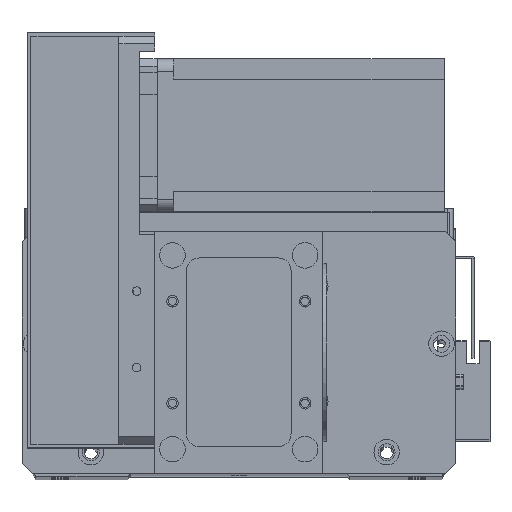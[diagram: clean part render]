
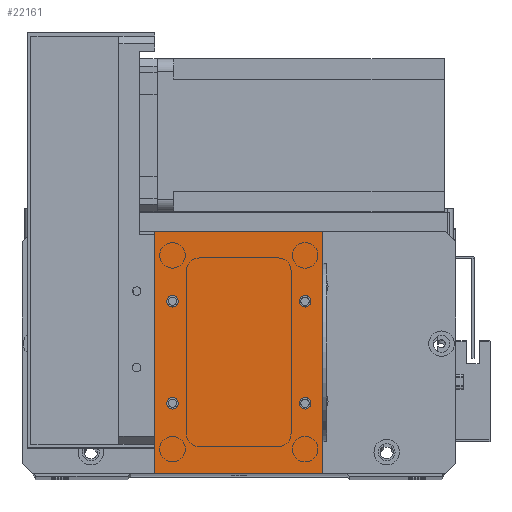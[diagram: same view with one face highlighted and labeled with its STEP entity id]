
A CAD part, top view. The second image highlights one B-rep face of the part: STEP entity #22161.
In plain terms, the highlighted planar face has unit normal (0, 0, 1).
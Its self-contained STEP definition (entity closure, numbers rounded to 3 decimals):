
#292 = ORIENTED_EDGE ( 'NONE', *, *, #13776, .F. ) ;
#482 = ORIENTED_EDGE ( 'NONE', *, *, #2116, .F. ) ;
#904 = CARTESIAN_POINT ( 'NONE',  ( 7., 27.5, 2. ) ) ;
#1367 = LINE ( 'NONE', #4318, #26223 ) ;
#1859 = DIRECTION ( 'NONE',  ( 0., 0., 1. ) ) ;
#2116 = EDGE_CURVE ( 'NONE', #9847, #8126, #17880, .T. ) ;
#2486 = CARTESIAN_POINT ( 'NONE',  ( 7., 67.5, 2. ) ) ;
#2509 = ORIENTED_EDGE ( 'NONE', *, *, #8671, .T. ) ;
#2815 = VERTEX_POINT ( 'NONE', #16320 ) ;
#3267 = EDGE_CURVE ( 'NONE', #12845, #21615, #25062, .T. ) ;
#3318 = DIRECTION ( 'NONE',  ( 1., 0., 0. ) ) ;
#4265 = EDGE_CURVE ( 'NONE', #11312, #17848, #9888, .T. ) ;
#4318 = CARTESIAN_POINT ( 'NONE',  ( 0., 0., 2. ) ) ;
#4695 = ORIENTED_EDGE ( 'NONE', *, *, #19526, .T. ) ;
#4778 = LINE ( 'NONE', #25567, #22480 ) ;
#4785 = LINE ( 'NONE', #13321, #16782 ) ;
#4895 = DIRECTION ( 'NONE',  ( 1., 0., 0. ) ) ;
#5209 = AXIS2_PLACEMENT_3D ( 'NONE', #16210, #1859, #18647 ) ;
#5248 = EDGE_LOOP ( 'NONE', ( #17287, #7141 ) ) ;
#5580 = AXIS2_PLACEMENT_3D ( 'NONE', #12690, #29585, #15091 ) ;
#5657 = FACE_OUTER_BOUND ( 'NONE', #22764, .T. ) ;
#5766 = ORIENTED_EDGE ( 'NONE', *, *, #27295, .F. ) ;
#6056 = EDGE_LOOP ( 'NONE', ( #7759, #292 ) ) ;
#6157 = ORIENTED_EDGE ( 'NONE', *, *, #17453, .T. ) ;
#6620 = DIRECTION ( 'NONE',  ( 0., 0., 1. ) ) ;
#6697 = AXIS2_PLACEMENT_3D ( 'NONE', #24813, #10337, #27255 ) ;
#6720 = DIRECTION ( 'NONE',  ( 1., 0., 0. ) ) ;
#6789 = CARTESIAN_POINT ( 'NONE',  ( 0., 95., 2. ) ) ;
#6821 = ORIENTED_EDGE ( 'NONE', *, *, #30851, .F. ) ;
#6937 = CIRCLE ( 'NONE', #6697, 2.25 ) ;
#6941 = CARTESIAN_POINT ( 'NONE',  ( 66., 0., 2. ) ) ;
#7141 = ORIENTED_EDGE ( 'NONE', *, *, #12444, .F. ) ;
#7165 = FACE_BOUND ( 'NONE', #5248, .T. ) ;
#7504 = EDGE_CURVE ( 'NONE', #14442, #2815, #22184, .T. ) ;
#7707 = DIRECTION ( 'NONE',  ( 0., 0., 1. ) ) ;
#7745 = AXIS2_PLACEMENT_3D ( 'NONE', #904, #17685, #3318 ) ;
#7759 = ORIENTED_EDGE ( 'NONE', *, *, #4265, .F. ) ;
#8126 = VERTEX_POINT ( 'NONE', #27397 ) ;
#8671 = EDGE_CURVE ( 'NONE', #16718, #20064, #4785, .T. ) ;
#8675 = DIRECTION ( 'NONE',  ( 0., 1., 0. ) ) ;
#9036 = EDGE_LOOP ( 'NONE', ( #482, #6821 ) ) ;
#9096 = AXIS2_PLACEMENT_3D ( 'NONE', #21040, #6620, #23479 ) ;
#9847 = VERTEX_POINT ( 'NONE', #13250 ) ;
#9888 = CIRCLE ( 'NONE', #9096, 2.25 ) ;
#10337 = DIRECTION ( 'NONE',  ( 0., 0., 1. ) ) ;
#11108 = CARTESIAN_POINT ( 'NONE',  ( 9.25, 67.5, 2. ) ) ;
#11312 = VERTEX_POINT ( 'NONE', #27550 ) ;
#11536 = CARTESIAN_POINT ( 'NONE',  ( 59., 67.5, 2. ) ) ;
#11824 = VECTOR ( 'NONE', #23545, 1000. ) ;
#12031 = FACE_BOUND ( 'NONE', #6056, .T. ) ;
#12444 = EDGE_CURVE ( 'NONE', #2815, #14442, #13099, .T. ) ;
#12690 = CARTESIAN_POINT ( 'NONE',  ( 7., 27.5, 2. ) ) ;
#12845 = VERTEX_POINT ( 'NONE', #26861 ) ;
#13099 = CIRCLE ( 'NONE', #5580, 2.25 ) ;
#13186 = DIRECTION ( 'NONE',  ( -1., 0., 0. ) ) ;
#13250 = CARTESIAN_POINT ( 'NONE',  ( 61.25, 67.5, 2. ) ) ;
#13321 = CARTESIAN_POINT ( 'NONE',  ( 0., 0., 2. ) ) ;
#13370 = AXIS2_PLACEMENT_3D ( 'NONE', #25230, #27558, #13186 ) ;
#13776 = EDGE_CURVE ( 'NONE', #17848, #11312, #27381, .T. ) ;
#13960 = DIRECTION ( 'NONE',  ( 1., 0., 0. ) ) ;
#14442 = VERTEX_POINT ( 'NONE', #20944 ) ;
#15091 = DIRECTION ( 'NONE',  ( 1., 0., 0. ) ) ;
#16210 = CARTESIAN_POINT ( 'NONE',  ( 59., 27.5, 2. ) ) ;
#16320 = CARTESIAN_POINT ( 'NONE',  ( 4.75, 27.5, 2. ) ) ;
#16513 = CARTESIAN_POINT ( 'NONE',  ( 0., 0., 2. ) ) ;
#16718 = VERTEX_POINT ( 'NONE', #27284 ) ;
#16782 = VECTOR ( 'NONE', #20697, 1000. ) ;
#17287 = ORIENTED_EDGE ( 'NONE', *, *, #7504, .F. ) ;
#17453 = EDGE_CURVE ( 'NONE', #21143, #27015, #4778, .T. ) ;
#17685 = DIRECTION ( 'NONE',  ( 0., 0., 1. ) ) ;
#17848 = VERTEX_POINT ( 'NONE', #29425 ) ;
#17880 = CIRCLE ( 'NONE', #28226, 2.25 ) ;
#18444 = FACE_BOUND ( 'NONE', #19378, .T. ) ;
#18446 = CIRCLE ( 'NONE', #19915, 2.25 ) ;
#18647 = DIRECTION ( 'NONE',  ( 1., 0., 0. ) ) ;
#18998 = ORIENTED_EDGE ( 'NONE', *, *, #30533, .T. ) ;
#19281 = DIRECTION ( 'NONE',  ( 0., 0., 1. ) ) ;
#19378 = EDGE_LOOP ( 'NONE', ( #5766, #22537 ) ) ;
#19526 = EDGE_CURVE ( 'NONE', #27015, #16718, #31084, .T. ) ;
#19915 = AXIS2_PLACEMENT_3D ( 'NONE', #22146, #7707, #24571 ) ;
#20064 = VERTEX_POINT ( 'NONE', #16513 ) ;
#20697 = DIRECTION ( 'NONE',  ( 0., -1., 0. ) ) ;
#20944 = CARTESIAN_POINT ( 'NONE',  ( 9.25, 27.5, 2. ) ) ;
#21040 = CARTESIAN_POINT ( 'NONE',  ( 59., 27.5, 2. ) ) ;
#21143 = VERTEX_POINT ( 'NONE', #6941 ) ;
#21615 = VERTEX_POINT ( 'NONE', #11108 ) ;
#22146 = CARTESIAN_POINT ( 'NONE',  ( 7., 67.5, 2. ) ) ;
#22161 = ADVANCED_FACE ( 'NONE', ( #18444, #24113, #12031, #7165, #5657 ), #22787, .F. ) ;
#22184 = CIRCLE ( 'NONE', #7745, 2.25 ) ;
#22480 = VECTOR ( 'NONE', #8675, 1000. ) ;
#22537 = ORIENTED_EDGE ( 'NONE', *, *, #3267, .F. ) ;
#22764 = EDGE_LOOP ( 'NONE', ( #2509, #18998, #6157, #4695 ) ) ;
#22787 = PLANE ( 'NONE',  #13370 ) ;
#23438 = CARTESIAN_POINT ( 'NONE',  ( 66., 95., 2. ) ) ;
#23479 = DIRECTION ( 'NONE',  ( 1., 0., 0. ) ) ;
#23545 = DIRECTION ( 'NONE',  ( -1., 0., 0. ) ) ;
#24113 = FACE_BOUND ( 'NONE', #9036, .T. ) ;
#24571 = DIRECTION ( 'NONE',  ( 1., 0., 0. ) ) ;
#24813 = CARTESIAN_POINT ( 'NONE',  ( 59., 67.5, 2. ) ) ;
#25062 = CIRCLE ( 'NONE', #26078, 2.25 ) ;
#25230 = CARTESIAN_POINT ( 'NONE',  ( 0., 0., 2. ) ) ;
#25567 = CARTESIAN_POINT ( 'NONE',  ( 66., 0., 2. ) ) ;
#26078 = AXIS2_PLACEMENT_3D ( 'NONE', #2486, #19281, #4895 ) ;
#26223 = VECTOR ( 'NONE', #6720, 1000. ) ;
#26861 = CARTESIAN_POINT ( 'NONE',  ( 4.75, 67.5, 2. ) ) ;
#27015 = VERTEX_POINT ( 'NONE', #23438 ) ;
#27255 = DIRECTION ( 'NONE',  ( 1., 0., 0. ) ) ;
#27284 = CARTESIAN_POINT ( 'NONE',  ( 0., 95., 2. ) ) ;
#27295 = EDGE_CURVE ( 'NONE', #21615, #12845, #18446, .T. ) ;
#27381 = CIRCLE ( 'NONE', #5209, 2.25 ) ;
#27397 = CARTESIAN_POINT ( 'NONE',  ( 56.75, 67.5, 2. ) ) ;
#27550 = CARTESIAN_POINT ( 'NONE',  ( 61.25, 27.5, 2. ) ) ;
#27558 = DIRECTION ( 'NONE',  ( 0., 0., -1. ) ) ;
#28226 = AXIS2_PLACEMENT_3D ( 'NONE', #11536, #28446, #13960 ) ;
#28446 = DIRECTION ( 'NONE',  ( 0., 0., 1. ) ) ;
#29425 = CARTESIAN_POINT ( 'NONE',  ( 56.75, 27.5, 2. ) ) ;
#29585 = DIRECTION ( 'NONE',  ( 0., 0., 1. ) ) ;
#30533 = EDGE_CURVE ( 'NONE', #20064, #21143, #1367, .T. ) ;
#30851 = EDGE_CURVE ( 'NONE', #8126, #9847, #6937, .T. ) ;
#31084 = LINE ( 'NONE', #6789, #11824 ) ;
